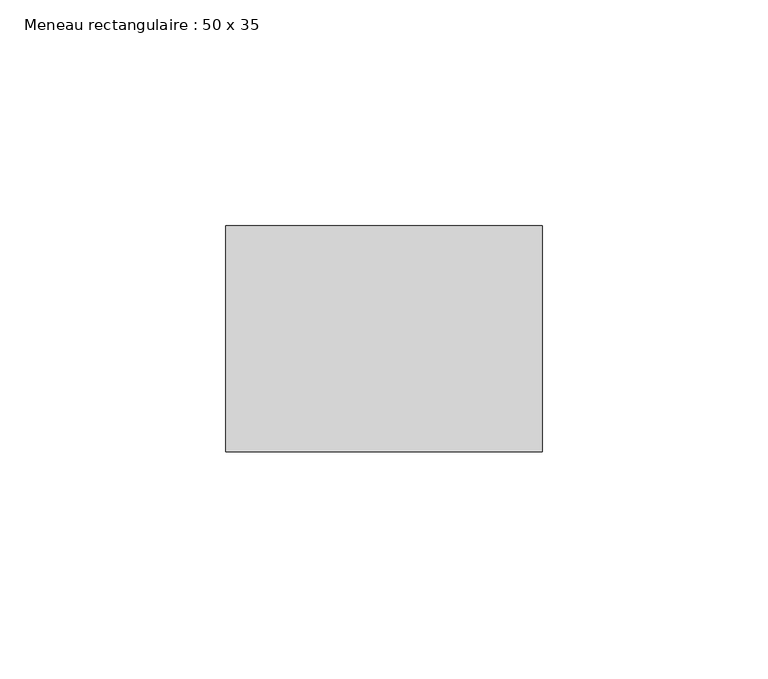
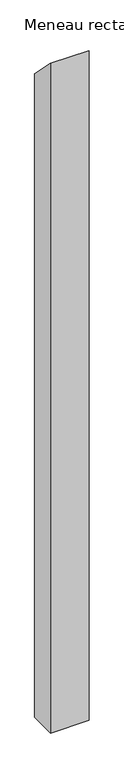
"""IFC4 building model written with IfcOpenShell, lengths in millimetres: member geometry, Meneau rectangulaire : 50 x 35."""

from ifc_helpers import new_model, si_unit, frame, origin, place, context, project, spatial, polyline, outline, extrude, source, transform, mapped, element, save


def meneau_rectangulaire_50_x_35_bdd3e130(model_context):
    return source(origin(), model_context, "Body", "SweptSolid", [
        extrude(outline(polyline([(-50.0, 50.0), (0.0, 0.0), (0.0, -1238.6548128), (-50.0, -1238.6548128), (-50.0, 50.0)])), frame((-70.0, 0.0, 0.0), z_axis=(1.0, 0.0, 0.0), x_axis=(0.0, 1.0, 0.0)), (0.0, 0.0, 1.0), 70.0),
    ])


if __name__ == "__main__":
    model = new_model("IFC4")
    model_context = context("Model", 3, world=origin())
    ifc_project = project(units=[si_unit("LENGTHUNIT", "METRE", prefix="MILLI")], contexts=[model_context])
    site = spatial("IfcSite", under=ifc_project)
    building = spatial("IfcBuilding", under=site)
    placement = place(None, origin())
    meneau_rectangulaire_50_x_35_shape = meneau_rectangulaire_50_x_35_bdd3e130(model_context)
    element("IfcMember", 1, ObjectType="Meneau rectangulaire : 50 x 35", at=placement, inside=building, context=model_context, shape_type="MappedRepresentation", body=[
        mapped(meneau_rectangulaire_50_x_35_shape, transform((0.0, 0.0, 0.0), x_axis=(1.0, 0.0, 0.0), y_axis=(0.0, 1.0, 0.0), z_axis=(0.0, 0.0, 1.0))),
    ])
    save(model, "model.ifc")
